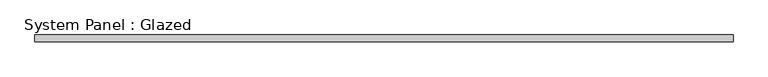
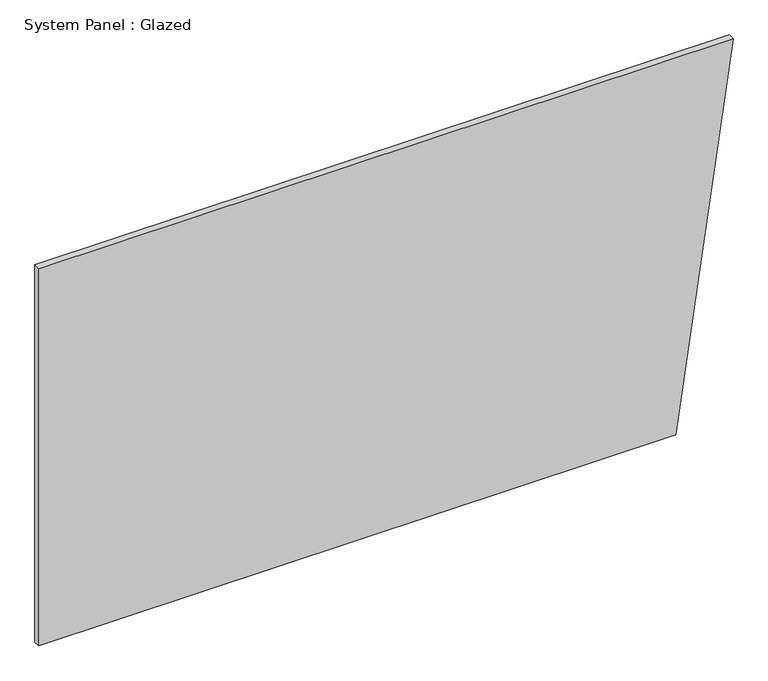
"""IFC4 building model written with IfcOpenShell, lengths in millimetres: plate geometry, System Panel : Glazed."""

from ifc_helpers import new_model, si_unit, frame, origin, place, context, project, spatial, polyline, outline, extrude, source, transform, mapped, element, save


def system_panel_glazed_f98ec8a0(model_context):
    return source(origin(), model_context, "Body", "SweptSolid", [
        extrude(outline(polyline([(0.0, -1326.6474819), (0.0, 1107.3669063), (1524.0, 1326.6474819), (1524.0, -1326.6474819), (0.0, -1326.6474819)])), frame((0.0, 19.05, 0.0), z_axis=(0.0, 1.0, 0.0), x_axis=(0.0, 0.0, 1.0)), (0.0, 0.0, 1.0), 25.4),
    ])


if __name__ == "__main__":
    model = new_model("IFC4")
    model_context = context("Model", 3, world=origin())
    ifc_project = project(units=[si_unit("LENGTHUNIT", "METRE", prefix="MILLI")], contexts=[model_context])
    site = spatial("IfcSite", under=ifc_project)
    building = spatial("IfcBuilding", under=site)
    placement = place(None, origin())
    system_panel_glazed_shape = system_panel_glazed_f98ec8a0(model_context)
    element("IfcPlate", 1, ObjectType="System Panel : Glazed", at=placement, inside=building, context=model_context, shape_type="MappedRepresentation", body=[
        mapped(system_panel_glazed_shape, transform((0.0, 0.0, 0.0), x_axis=(1.0, 0.0, 0.0), y_axis=(0.0, 1.0, 0.0), z_axis=(0.0, 0.0, 1.0))),
    ])
    save(model, "model.ifc")
